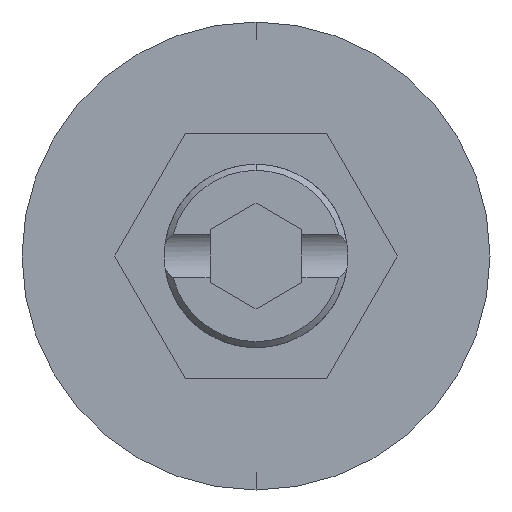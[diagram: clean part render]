
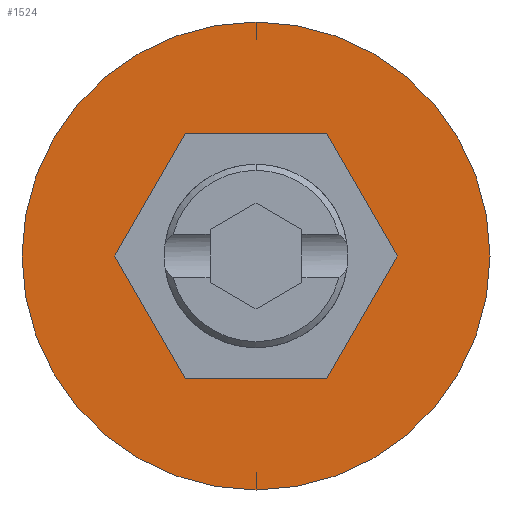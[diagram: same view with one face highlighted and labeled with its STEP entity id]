
A CAD part, front view. The second image highlights one B-rep face of the part: STEP entity #1524.
In plain terms, the highlighted planar face has unit normal (0, -1, 0).
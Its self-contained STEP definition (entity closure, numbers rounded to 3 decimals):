
#14 = EDGE_CURVE ( 'NONE', #1970, #1110, #1953, .T. ) ;
#27 = VERTEX_POINT ( 'NONE', #3345 ) ;
#85 = AXIS2_PLACEMENT_3D ( 'NONE', #3316, #1590, #3594 ) ;
#143 = CARTESIAN_POINT ( 'NONE',  ( 4.619, 0., 0. ) ) ;
#149 = LINE ( 'NONE', #570, #917 ) ;
#205 = CARTESIAN_POINT ( 'NONE',  ( 0., 0., 7.65 ) ) ;
#286 = DIRECTION ( 'NONE',  ( -1., 0., 0. ) ) ;
#570 = CARTESIAN_POINT ( 'NONE',  ( 2.309, 0., 4. ) ) ;
#580 = DIRECTION ( 'NONE',  ( 0.5, 0., -0.866 ) ) ;
#596 = CARTESIAN_POINT ( 'NONE',  ( 0., 0., -7.65 ) ) ;
#642 = ORIENTED_EDGE ( 'NONE', *, *, #1706, .T. ) ;
#645 = CARTESIAN_POINT ( 'NONE',  ( -2.309, 0., 4. ) ) ;
#754 = DIRECTION ( 'NONE',  ( 1., 0., 0. ) ) ;
#818 = AXIS2_PLACEMENT_3D ( 'NONE', #1093, #3135, #1397 ) ;
#917 = VECTOR ( 'NONE', #286, 1000. ) ;
#918 = VERTEX_POINT ( 'NONE', #3455 ) ;
#952 = DIRECTION ( 'NONE',  ( -0.5, 0., -0.866 ) ) ;
#1058 = ORIENTED_EDGE ( 'NONE', *, *, #1974, .T. ) ;
#1093 = CARTESIAN_POINT ( 'NONE',  ( 0., 0., 0. ) ) ;
#1110 = VERTEX_POINT ( 'NONE', #2728 ) ;
#1332 = CIRCLE ( 'NONE', #818, 7.65 ) ;
#1355 = DIRECTION ( 'NONE',  ( 0., 0., -1. ) ) ;
#1371 = CARTESIAN_POINT ( 'NONE',  ( -2.309, 0., -4. ) ) ;
#1383 = DIRECTION ( 'NONE',  ( 0., -1., 0. ) ) ;
#1385 = CARTESIAN_POINT ( 'NONE',  ( 2.309, 0., -4. ) ) ;
#1397 = DIRECTION ( 'NONE',  ( 0., 0., -1. ) ) ;
#1408 = CARTESIAN_POINT ( 'NONE',  ( -2.309, 0., 4. ) ) ;
#1440 = PLANE ( 'NONE',  #1565 ) ;
#1492 = ORIENTED_EDGE ( 'NONE', *, *, #2850, .F. ) ;
#1524 = ADVANCED_FACE ( 'NONE', ( #2090, #2256 ), #1440, .T. ) ;
#1555 = CARTESIAN_POINT ( 'NONE',  ( 0., 0., 0. ) ) ;
#1565 = AXIS2_PLACEMENT_3D ( 'NONE', #1555, #1383, #1355 ) ;
#1590 = DIRECTION ( 'NONE',  ( 0., -1., 0. ) ) ;
#1614 = VECTOR ( 'NONE', #754, 1000. ) ;
#1706 = EDGE_CURVE ( 'NONE', #2034, #2419, #1805, .T. ) ;
#1717 = LINE ( 'NONE', #1371, #1614 ) ;
#1805 = CIRCLE ( 'NONE', #85, 7.65 ) ;
#1865 = EDGE_CURVE ( 'NONE', #1110, #27, #3721, .T. ) ;
#1902 = VECTOR ( 'NONE', #3384, 1000. ) ;
#1946 = EDGE_CURVE ( 'NONE', #3570, #1970, #1717, .T. ) ;
#1953 = LINE ( 'NONE', #3515, #1902 ) ;
#1970 = VERTEX_POINT ( 'NONE', #1385 ) ;
#1974 = EDGE_CURVE ( 'NONE', #2419, #2034, #1332, .T. ) ;
#2034 = VERTEX_POINT ( 'NONE', #205 ) ;
#2072 = CARTESIAN_POINT ( 'NONE',  ( -2.309, 0., -4. ) ) ;
#2090 = FACE_BOUND ( 'NONE', #2322, .T. ) ;
#2231 = DIRECTION ( 'NONE',  ( -0.5, 0., 0.866 ) ) ;
#2256 = FACE_OUTER_BOUND ( 'NONE', #2861, .T. ) ;
#2322 = EDGE_LOOP ( 'NONE', ( #3232, #3134, #3213, #1492, #2917, #2468 ) ) ;
#2419 = VERTEX_POINT ( 'NONE', #596 ) ;
#2468 = ORIENTED_EDGE ( 'NONE', *, *, #14, .F. ) ;
#2570 = EDGE_CURVE ( 'NONE', #2639, #918, #3440, .T. ) ;
#2639 = VERTEX_POINT ( 'NONE', #1408 ) ;
#2728 = CARTESIAN_POINT ( 'NONE',  ( 4.619, 0., 0. ) ) ;
#2850 = EDGE_CURVE ( 'NONE', #27, #2639, #149, .T. ) ;
#2861 = EDGE_LOOP ( 'NONE', ( #1058, #642 ) ) ;
#2883 = EDGE_CURVE ( 'NONE', #918, #3570, #3690, .T. ) ;
#2917 = ORIENTED_EDGE ( 'NONE', *, *, #1865, .F. ) ;
#3134 = ORIENTED_EDGE ( 'NONE', *, *, #2883, .F. ) ;
#3135 = DIRECTION ( 'NONE',  ( 0., -1., 0. ) ) ;
#3213 = ORIENTED_EDGE ( 'NONE', *, *, #2570, .F. ) ;
#3232 = ORIENTED_EDGE ( 'NONE', *, *, #1946, .F. ) ;
#3316 = CARTESIAN_POINT ( 'NONE',  ( 0., 0., 0. ) ) ;
#3345 = CARTESIAN_POINT ( 'NONE',  ( 2.309, 0., 4. ) ) ;
#3384 = DIRECTION ( 'NONE',  ( 0.5, 0., 0.866 ) ) ;
#3391 = VECTOR ( 'NONE', #952, 1000. ) ;
#3440 = LINE ( 'NONE', #645, #3391 ) ;
#3455 = CARTESIAN_POINT ( 'NONE',  ( -4.619, 0., 0. ) ) ;
#3515 = CARTESIAN_POINT ( 'NONE',  ( 2.309, 0., -4. ) ) ;
#3570 = VERTEX_POINT ( 'NONE', #2072 ) ;
#3592 = VECTOR ( 'NONE', #580, 1000. ) ;
#3594 = DIRECTION ( 'NONE',  ( 0., 0., -1. ) ) ;
#3627 = VECTOR ( 'NONE', #2231, 1000. ) ;
#3690 = LINE ( 'NONE', #3774, #3592 ) ;
#3721 = LINE ( 'NONE', #143, #3627 ) ;
#3774 = CARTESIAN_POINT ( 'NONE',  ( -4.619, 0., 0. ) ) ;
